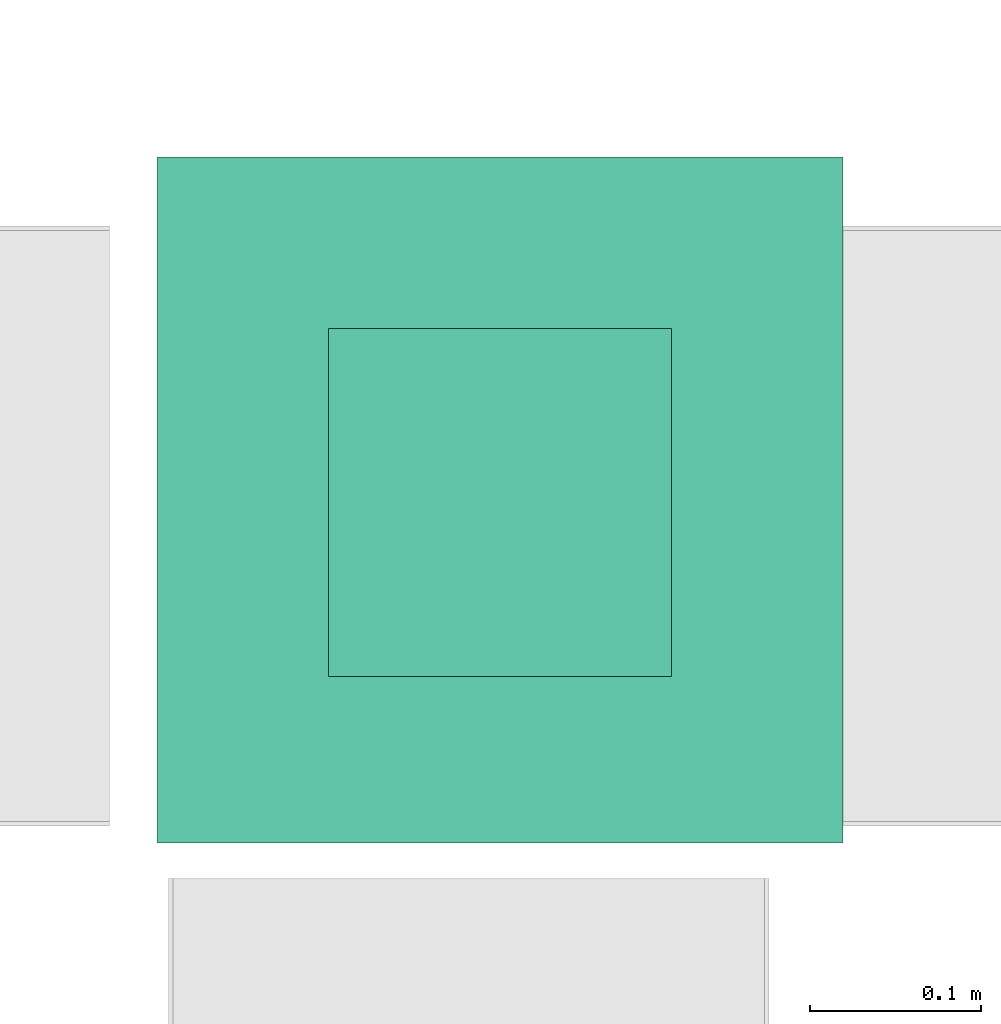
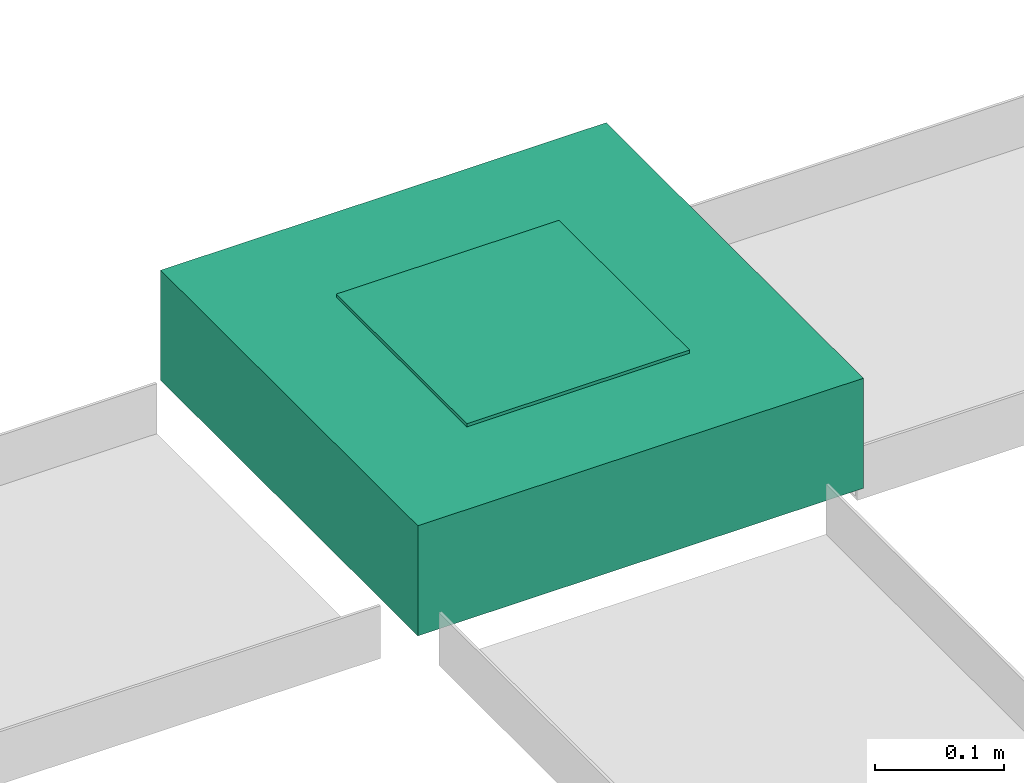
# One storey, part 8 of 24: 1 flow terminal.
"""IFC2X3 building model written with IfcOpenShell, lengths in millimetres."""

from ifc_helpers import new_model, entity, si_unit, converted_unit, derived_unit, direction, frame, origin_with_axes, place, context, subcontext, project, spatial, open_shell, surface_model, source, transform, mapped, type_object, element, save


model = new_model("IFC2X3")

# Units and contexts
model_context = context("Model", 3, precision=0.01, world=frame((0.0, 4.29681676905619e-09, 0.0)), true_north=direction((4.01073788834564e-13, 1.0)))
plan_context = context("Plan", 3, precision=0.01, world=frame((0.0, 4.29681676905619e-09, 0.0)), true_north=direction((4.01073788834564e-13, 1.0)))
body_context = subcontext(model_context, "Body", "Model", "MODEL_VIEW")
ifc_project = project(units=[converted_unit("PLANEANGLEUNIT", "DEGREE", entity("IfcPositiveLengthMeasure", 0.0174532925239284), si_unit("PLANEANGLEUNIT", "RADIAN"), dimensions=[0, 0, 0, 0, 0, 0, 0]), si_unit("AREAUNIT", "SQUARE_METRE"), si_unit("LENGTHUNIT", "METRE", prefix="MILLI"), si_unit("MASSUNIT", "GRAM", prefix="KILO"), si_unit("POWERUNIT", "WATT"), si_unit("PRESSUREUNIT", "PASCAL"), si_unit("FORCEUNIT", "NEWTON", prefix="KILO"), si_unit("ELECTRICVOLTAGEUNIT", "VOLT"), si_unit("ELECTRICCURRENTUNIT", "AMPERE"), si_unit("THERMODYNAMICTEMPERATUREUNIT", "DEGREE_CELSIUS"), si_unit("TIMEUNIT", "SECOND"), si_unit("VOLUMEUNIT", "CUBIC_METRE"), derived_unit("LINEARVELOCITYUNIT", [(si_unit("LENGTHUNIT", "METRE"), 1), (si_unit("TIMEUNIT", "SECOND"), -1)]), derived_unit("VOLUMETRICFLOWRATEUNIT", [(si_unit("VOLUMEUNIT", "CUBIC_METRE"), 1), (si_unit("TIMEUNIT", "SECOND"), -1)]), derived_unit("THERMALTRANSMITTANCEUNIT", [(si_unit("POWERUNIT", "WATT"), 1), (si_unit("THERMODYNAMICTEMPERATUREUNIT", "KELVIN"), -1), (si_unit("AREAUNIT", "SQUARE_METRE"), -1)]), derived_unit("SOUNDPRESSUREUNIT", [(si_unit("PRESSUREUNIT", "PASCAL"), 1)])], contexts=[model_context, plan_context])

# Site, building, storey
site_placement = place(None, frame((0.0, -4.29681676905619e-09, 0.0), z_axis=(0.0, 0.0, 1.0), x_axis=(1.0, 0.0, 0.0)))
site = spatial("IfcSite", under=ifc_project, at=site_placement, Name="ENGM", CompositionType="ELEMENT")
building_placement = place(site_placement, frame((0.0, 4.29681676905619e-09, 0.0), z_axis=(0.0, 0.0, 1.0), x_axis=(1.0, 0.0, 0.0)))
building = spatial("IfcBuilding", under=site, at=building_placement, Name="TH", CompositionType="ELEMENT")
storey_placement = place(building_placement, frame((0.0, 0.0, 210200.0), z_axis=(0.0, 0.0, 1.0), x_axis=(1.0, 0.0, 0.0)))
storey = spatial("IfcBuildingStorey", under=building, at=storey_placement, Name="Nivå F - 0,7 m", CompositionType="ELEMENT", Elevation=210200.0)

# Flow terminal
electric_appliance_type = type_object("IfcElectricApplianceType", Name="OTHER-EE-POWER-BALANCED-DUMMY", PredefinedType="NOTDEFINED")
shared_shape = source(origin_with_axes(), body_context, "Body", "SurfaceModel", [
    surface_model("IfcShellBasedSurfaceModel", [(199.96, -199.96, -8.96812), (199.96, 200.0, -8.96812), (-200.0, 200.0, -8.96812), (-200.0, -199.96, -8.96812), (-200.0, -199.96, -108.96812), (-200.0, 200.0, -108.96812), (199.96, -199.96, -108.96812), (199.96, 200.0, -108.96812), (99.91278, -102.96181, -1.48406), (99.91278, 100.0, -1.48406), (-100.0, -102.96181, -1.48406), (-100.0, 100.0, -1.48406), (-100.0, -102.96181, -4.48406), (-100.0, 100.0, -4.48406), (99.91278, 100.0, -4.48406), (99.91278, -102.96181, -4.48406), (199.96, -199.96, -4.48406), (199.96, 200.0, -4.48406), (-200.0, 200.0, -4.48406), (-200.0, -199.96, -4.48406), (-200.0, -199.96, -104.48406), (-200.0, 200.0, -104.48406), (199.96, -199.96, -104.48406), (199.96, 200.0, -104.48406)], [open_shell([[[0, 1, 2]], [[2, 3, 0]], [[4, 5, 6]], [[7, 6, 5]], [[2, 1, 7]], [[7, 5, 2]], [[3, 2, 5]], [[5, 4, 3]], [[0, 3, 4]], [[4, 6, 0]], [[1, 0, 6]], [[6, 7, 1]], [[8, 9, 10]], [[11, 10, 9]], [[12, 13, 14]], [[14, 15, 12]], [[11, 9, 14]], [[14, 13, 11]], [[10, 11, 13]], [[13, 12, 10]], [[8, 10, 12]], [[12, 15, 8]], [[9, 8, 15]], [[15, 14, 9]], [[16, 17, 18]], [[18, 19, 16]], [[20, 21, 22]], [[23, 22, 21]], [[18, 17, 23]], [[23, 21, 18]], [[19, 18, 21]], [[21, 20, 19]], [[16, 19, 20]], [[20, 22, 16]], [[17, 16, 22]], [[22, 23, 17]]])]),
])
flow_terminal_placement = place(storey_placement, frame((899507.89, 482161.819, 1.5), z_axis=(0.0, 0.0, 1.0), x_axis=(1.0, 0.0, 0.0)))
element("IfcFlowTerminal", 1, at=flow_terminal_placement, inside=storey, type_object=electric_appliance_type, Name="OTHER-EE-POWER-BALANCED-DUMMY", context=body_context, shape_type="MappedRepresentation", body=[
    mapped(shared_shape, transform((0.0, 0.0, 0.0), scale=1.0)),
])

save(model, "model.ifc")
